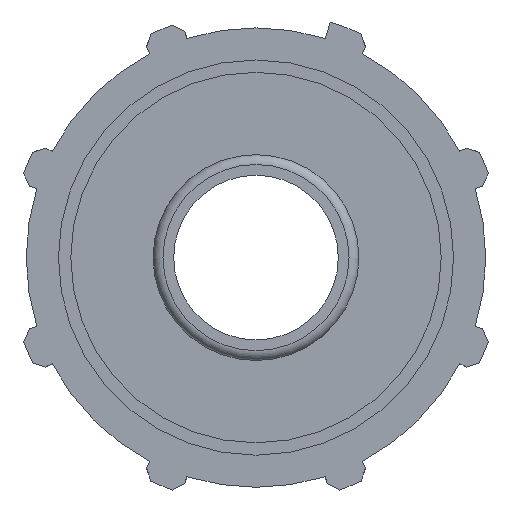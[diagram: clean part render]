
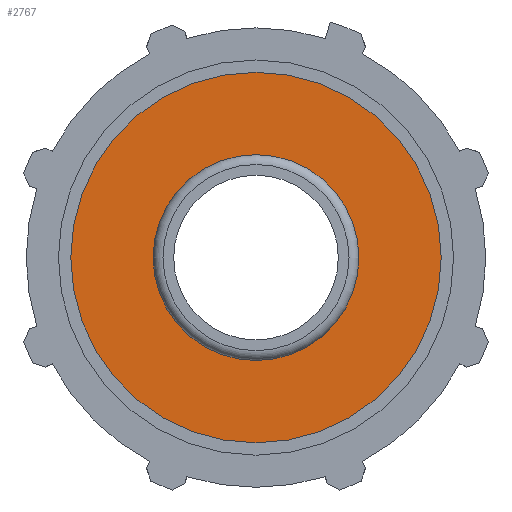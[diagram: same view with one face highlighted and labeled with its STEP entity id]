
A CAD part, left-side view. The second image highlights one B-rep face of the part: STEP entity #2767.
In plain terms, the highlighted planar face has unit normal (-1, 0, 0).
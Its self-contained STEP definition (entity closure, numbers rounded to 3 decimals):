
#585=PLANE('',#3074);
#611=FACE_BOUND('',#944,.T.);
#765=FACE_OUTER_BOUND('',#943,.T.);
#943=EDGE_LOOP('',(#2587));
#944=EDGE_LOOP('',(#2588));
#958=CIRCLE('',#2786,10.);
#1102=CIRCLE('',#3075,18.);
#1112=VERTEX_POINT('',#3910);
#1380=VERTEX_POINT('',#4863);
#1390=EDGE_CURVE('',#1112,#1112,#958,.T.);
#1784=EDGE_CURVE('',#1380,#1380,#1102,.T.);
#2587=ORIENTED_EDGE('',*,*,#1784,.F.);
#2588=ORIENTED_EDGE('',*,*,#1390,.T.);
#2767=ADVANCED_FACE('',(#765,#611),#585,.T.);
#2786=AXIS2_PLACEMENT_3D('',#3911,#3109,#3110);
#3074=AXIS2_PLACEMENT_3D('',#4862,#3875,#3876);
#3075=AXIS2_PLACEMENT_3D('',#4864,#3877,#3878);
#3109=DIRECTION('center_axis',(1.,0.,0.));
#3110=DIRECTION('ref_axis',(0.,0.,-1.));
#3875=DIRECTION('center_axis',(-1.,0.,0.));
#3876=DIRECTION('ref_axis',(0.,0.,1.));
#3877=DIRECTION('center_axis',(1.,0.,0.));
#3878=DIRECTION('ref_axis',(0.,0.,-1.));
#3910=CARTESIAN_POINT('',(-16.,10.,0.));
#3911=CARTESIAN_POINT('Origin',(-16.,0.,0.));
#4862=CARTESIAN_POINT('Origin',(-16.,18.,0.));
#4863=CARTESIAN_POINT('',(-16.,18.,0.));
#4864=CARTESIAN_POINT('Origin',(-16.,0.,0.));
